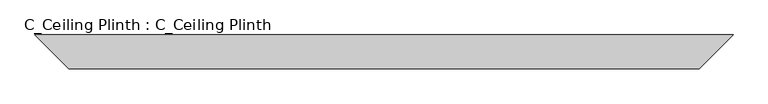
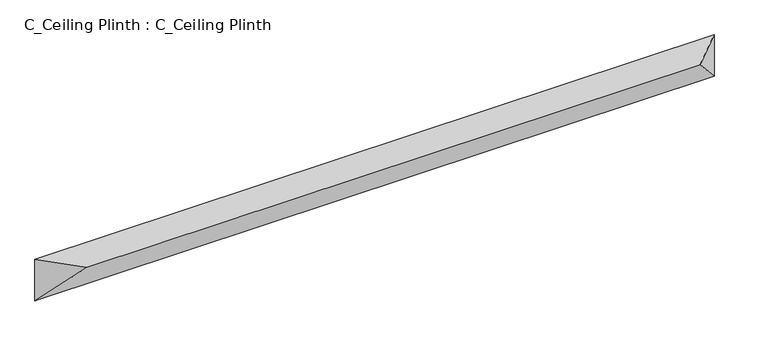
"""IFC4 building model written with IfcOpenShell, lengths in millimetres: proxy geometry, C_Ceiling Plinth : C_Ceiling Plinth."""

import ifcopenshell
import ifcopenshell.guid

model = None  # the IFC model being written
_history = None  # IfcOwnerHistory: only IFC2X3 demands one
_inside = {}  # id of a spatial element -> (the spatial element, [elements in it])
_under = {}  # id of a project, library or spatial element -> (it, [spatial elements below it])
_declared = {}  # id of a project -> (the project, [libraries it declares])
_typed = {}  # id of a type object -> (the type object, [elements of that type])
_made_of = {}  # id of a material, layer set ... -> (it, [elements and type objects made of it])


def new_model(schema):
    """Start an empty IFC model of exactly this schema.

    Asked for "IFC4X3", IfcOpenShell would pick the latest addendum, in which some entities
    have other attributes; the version numbers below select the first issue.
    IFC2X3 requires an IfcOwnerHistory on every rooted entity: one is made here for all.
    """
    global model, _history
    if schema == "IFC4X3":
        model = ifcopenshell.file(schema_version=(4, 3, 0, 0))
    else:
        model = ifcopenshell.file(schema=schema)
    _inside.clear()
    _under.clear()
    _declared.clear()
    _typed.clear()
    _made_of.clear()
    _history = None
    if model.schema == "IFC2X3":
        org = make("IfcOrganization", Name="unknown")
        user = make(
            "IfcPersonAndOrganization",
            ThePerson=make("IfcPerson", FamilyName="unknown"),
            TheOrganization=org,
        )
        app = make(
            "IfcApplication",
            ApplicationDeveloper=org,
            Version="unknown",
            ApplicationFullName="unknown",
            ApplicationIdentifier="unknown",
        )
        _history = make(
            "IfcOwnerHistory",
            OwningUser=user,
            OwningApplication=app,
            ChangeAction="ADDED",
            CreationDate=0,
        )
    return model


def make(cls, **values):
    """One entity of the class cls with the attributes given. An attribute that is None is left unset."""
    return model.create_entity(
        cls, **{name: value for name, value in values.items() if value is not None}
    )


def rooted(cls, **values):
    """An entity with a GlobalId (a new one), such as an element, a storey or a relation."""
    return make(cls, GlobalId=ifcopenshell.guid.new(), OwnerHistory=_history, **values)


def si_unit(unit_type, name, prefix=None):
    """IfcSIUnit, for example si_unit("LENGTHUNIT", "METRE", prefix="MILLI")."""
    return make("IfcSIUnit", UnitType=unit_type, Prefix=prefix, Name=name)


def assignment(units):
    """IfcUnitAssignment: the units of a project."""
    return None if units is None else make("IfcUnitAssignment", Units=units)


def point(xyz):
    """IfcCartesianPoint."""
    return None if xyz is None else make("IfcCartesianPoint", Coordinates=xyz)


def direction(xyz):
    """IfcDirection."""
    return None if xyz is None else make("IfcDirection", DirectionRatios=xyz)


def frame(location, z_axis=None, x_axis=None):
    """IfcAxis2Placement3D, a coordinate frame: its origin and axes. An axis left out is left unset."""
    return make(
        "IfcAxis2Placement3D",
        Location=point(location),
        Axis=direction(z_axis),
        RefDirection=direction(x_axis),
    )


def origin():
    """The frame at (0, 0, 0) with its axes left unset."""
    return frame((0.0, 0.0, 0.0))


def place(relative_to, where):
    """IfcLocalPlacement: puts the frame where relative to a parent placement (None: the world)."""
    return make(
        "IfcLocalPlacement", PlacementRelTo=relative_to, RelativePlacement=where
    )


def context(
    kind, dimensions, precision=None, world=None, true_north=None, identifier=None
):
    """IfcGeometricRepresentationContext, for example the 3D "Model" context."""
    return make(
        "IfcGeometricRepresentationContext",
        ContextIdentifier=identifier,
        ContextType=kind,
        CoordinateSpaceDimension=dimensions,
        Precision=precision,
        WorldCoordinateSystem=world,
        TrueNorth=true_north,
    )


def project(units=None, contexts=None):
    """IfcProject with its units and contexts."""
    return rooted(
        "IfcProject",
        Name="project",
        RepresentationContexts=contexts,
        UnitsInContext=assignment(units),
    )


def spatial(cls, under=None, at=None, **own):
    """A site, building, storey or space (cls), placed at a placement, below another one or the project."""
    s = rooted(cls, ObjectPlacement=at, **own)
    if under is not None:
        _under.setdefault(under.id(), (under, []))[1].append(s)
    return s


def faces_of(points, faces, orient=None, outer=None):
    """IfcFace entities. A face is a list of loops; a loop is a list of indices into points, from 0.

    orient and outer hold one flag for each loop. By default every Orientation is true, the
    first loop of a face is its IfcFaceOuterBound and the others are IfcFaceBound.
    """
    made = []
    for i, loops in enumerate(faces):
        bounds = []
        for j, loop in enumerate(loops):
            is_outer = j == 0 if outer is None else outer[i][j]
            bounds.append(
                make(
                    "IfcFaceOuterBound" if is_outer else "IfcFaceBound",
                    Bound=make("IfcPolyLoop", Polygon=[points[k] for k in loop]),
                    Orientation=True if orient is None else orient[i][j],
                )
            )
        made.append(make("IfcFace", Bounds=bounds))
    return made


def faceted_brep(points, faces, orient=None, outer=None, voids=None):
    """IfcFacetedBrep: a solid bounded by flat faces; with voids (closed shells), ...WithVoids."""
    shared = [point(p) for p in points]
    hull = make("IfcClosedShell", CfsFaces=faces_of(shared, faces, orient, outer))
    if voids is None:
        return make("IfcFacetedBrep", Outer=hull)
    return make(
        "IfcFacetedBrepWithVoids",
        Outer=hull,
        Voids=[
            make(cls, CfsFaces=faces_of(shared, fs, o, b)) for cls, fs, o, b in voids
        ],
    )


def shape(context_of_items, identifier, shape_type, items):
    """IfcShapeRepresentation: the items that make up one representation, for example the "Body"."""
    return make(
        "IfcShapeRepresentation",
        ContextOfItems=context_of_items,
        RepresentationIdentifier=identifier,
        RepresentationType=shape_type,
        Items=items,
    )


def source(mapping_origin, context_of_items, identifier, shape_type, items):
    """IfcRepresentationMap: a shape defined once, which mapped items show again and again."""
    return make(
        "IfcRepresentationMap",
        MappingOrigin=mapping_origin,
        MappedRepresentation=shape(context_of_items, identifier, shape_type, items),
    )


def transform(
    local_origin,
    x_axis=None,
    y_axis=None,
    z_axis=None,
    scale=None,
    scale2=None,
    scale3=None,
    uniform=True,
):
    """IfcCartesianTransformationOperator3D, or its non-uniform kind. x_axis, y_axis, z_axis: its Axis1, 2, 3."""
    if uniform:
        return make(
            "IfcCartesianTransformationOperator3D",
            Axis1=direction(x_axis),
            Axis2=direction(y_axis),
            LocalOrigin=point(local_origin),
            Scale=scale,
            Axis3=direction(z_axis),
        )
    return make(
        "IfcCartesianTransformationOperator3DnonUniform",
        Axis1=direction(x_axis),
        Axis2=direction(y_axis),
        LocalOrigin=point(local_origin),
        Scale=scale,
        Axis3=direction(z_axis),
        Scale2=scale2,
        Scale3=scale3,
    )


def mapped(mapping_source, mapping_target):
    """IfcMappedItem: shows the shape of a source again, moved by a transform."""
    return make(
        "IfcMappedItem", MappingSource=mapping_source, MappingTarget=mapping_target
    )


def made_of(thing, what):
    """Note that an element or type object is made of a material, layer set ...; save() writes the relation."""
    if what is not None:
        _made_of.setdefault(what.id(), (what, []))[1].append(thing)
    return thing


def element(
    cls,
    number,
    at=None,
    inside=None,
    cuts=None,
    type_object=None,
    material=None,
    context=None,
    identifier="Body",
    shape_type=None,
    held_by="IfcProductDefinitionShape",
    body=None,
    shapes=None,
    **own,
):
    """One element of the class cls, such as IfcWall. Its Tag is "e" and its number.

    at: its placement. inside: the storey or other place that contains it. cuts: it is an
    opening in that element (IfcRelVoidsElement). A single representation is given by context,
    identifier, shape_type and body (its items); several are given by shapes. held_by: the class
    of the entity that holds the representations. save() writes the other relations.
    """
    e = rooted(cls, Tag="e%d" % number, ObjectPlacement=at, **own)
    if body is not None:
        shapes = [shape(context, identifier, shape_type, body)]
    if shapes is not None:
        e.Representation = make(held_by, Representations=shapes)
    if inside is not None:
        _inside.setdefault(inside.id(), (inside, []))[1].append(e)
    if cuts is not None:
        rooted(
            "IfcRelVoidsElement", RelatingBuildingElement=cuts, RelatedOpeningElement=e
        )
    if type_object is not None:
        _typed.setdefault(type_object.id(), (type_object, []))[1].append(e)
    return made_of(e, material)


def aggregate(whole, parts):
    """IfcRelAggregates: a whole, such as a stair, and the parts it consists of."""
    return rooted("IfcRelAggregates", RelatingObject=whole, RelatedObjects=parts)


def save(model, path):
    """Write the relations noted so far, then the file.

    IfcRelAggregates (storeys below a building ...), IfcRelContainedInSpatialStructure (elements
    in a storey), IfcRelDefinesByType, IfcRelAssociatesMaterial and IfcRelDeclares: one each for
    every whole, place, type object, material and project.
    """
    for whole, parts in _under.values():
        aggregate(whole, parts)
    for where, things in _inside.values():
        rooted(
            "IfcRelContainedInSpatialStructure",
            RelatedElements=things,
            RelatingStructure=where,
        )
    for kind, things in _typed.values():
        rooted("IfcRelDefinesByType", RelatedObjects=things, RelatingType=kind)
    for what, things in _made_of.values():
        rooted("IfcRelAssociatesMaterial", RelatedObjects=things, RelatingMaterial=what)
    for by, libraries in _declared.values():
        rooted("IfcRelDeclares", RelatingContext=by, RelatedDefinitions=libraries)
    model.write(path)


def c_ceiling_plinth_c_ceiling_plinth_816fd98c(model_context):
    return source(origin(), model_context, "Body", "Brep", [
        faceted_brep([(1574.8, 0.0, 0.0), (1574.8, 0.0, -101.6), (0.0, 0.0, -101.6), (0.0, 0.0, 0.0), (1498.6, -76.2, 0.0), (76.2, -76.2, 0.0)], [[[0, 1, 2, 3]], [[4, 0, 3, 5]], [[1, 4, 5, 2]], [[1, 0, 4]], [[3, 2, 5]]]),
    ])


if __name__ == "__main__":
    model = new_model("IFC4")
    model_context = context("Model", 3, world=origin())
    ifc_project = project(units=[si_unit("LENGTHUNIT", "METRE", prefix="MILLI")], contexts=[model_context])
    site = spatial("IfcSite", under=ifc_project)
    building = spatial("IfcBuilding", under=site)
    placement = place(None, origin())
    c_ceiling_plinth_c_ceiling_plinth_shape = c_ceiling_plinth_c_ceiling_plinth_816fd98c(model_context)
    element("IfcBuildingElementProxy", 1, Name="C_Ceiling Plinth : C_Ceiling Plinth", ObjectType="C_Ceiling Plinth : C_Ceiling Plinth", at=placement, inside=building, context=model_context, shape_type="MappedRepresentation", body=[
        mapped(c_ceiling_plinth_c_ceiling_plinth_shape, transform((0.0, 0.0, 0.0), x_axis=(1.0, 0.0, 0.0), y_axis=(0.0, 1.0, 0.0), z_axis=(0.0, 0.0, 1.0))),
    ])
    save(model, "model.ifc")
